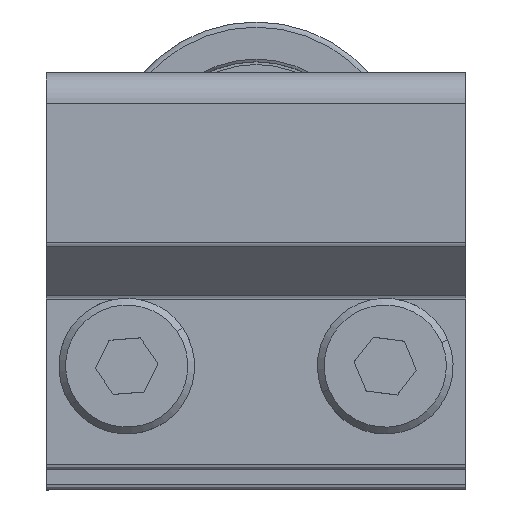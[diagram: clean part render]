
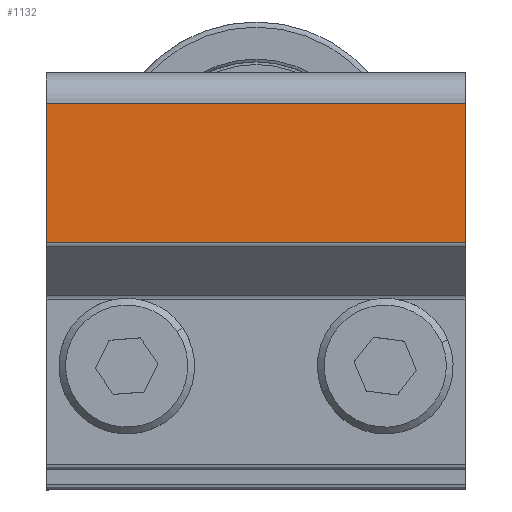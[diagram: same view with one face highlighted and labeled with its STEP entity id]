
A CAD part, top view. The second image highlights one B-rep face of the part: STEP entity #1132.
In plain terms, the highlighted planar face has unit normal (0, 0, 1) as drawn and (1, 0, 0) by its records, which use the part's own axes.
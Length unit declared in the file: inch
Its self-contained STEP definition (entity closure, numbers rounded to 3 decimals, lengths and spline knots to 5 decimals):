
#632=DIRECTION('',(0.,0.,1.));
#633=VECTOR('',#632,1.216);
#634=CARTESIAN_POINT('',(0.375,0.35921,-0.608));
#635=LINE('',#634,#633);
#636=DIRECTION('',(0.,-1.,0.));
#637=VECTOR('',#636,0.40379);
#638=CARTESIAN_POINT('',(0.375,0.763,-0.608));
#639=LINE('',#638,#637);
#717=DIRECTION('',(0.,-1.,0.));
#718=VECTOR('',#717,0.40379);
#719=CARTESIAN_POINT('',(0.375,0.763,0.608));
#720=LINE('',#719,#718);
#930=DIRECTION('',(0.,0.,-1.));
#931=VECTOR('',#930,1.216);
#932=CARTESIAN_POINT('',(0.375,0.763,0.608));
#933=LINE('',#932,#931);
#968=CARTESIAN_POINT('',(0.375,0.763,0.608));
#969=CARTESIAN_POINT('',(0.375,0.35921,0.608));
#970=VERTEX_POINT('',#968);
#971=VERTEX_POINT('',#969);
#1036=CARTESIAN_POINT('',(0.375,0.35921,-0.608));
#1037=VERTEX_POINT('',#1036);
#1046=CARTESIAN_POINT('',(0.375,0.763,-0.608));
#1047=VERTEX_POINT('',#1046);
#1119=CARTESIAN_POINT('',(0.375,0.763,0.608));
#1120=DIRECTION('',(-1.,0.,0.));
#1121=DIRECTION('',(0.,-1.,0.));
#1122=AXIS2_PLACEMENT_3D('',#1119,#1120,#1121);
#1123=PLANE('',#1122);
#1125=ORIENTED_EDGE('',*,*,#1124,.F.);
#1127=ORIENTED_EDGE('',*,*,#1126,.T.);
#1128=ORIENTED_EDGE('',*,*,#1075,.T.);
#1129=ORIENTED_EDGE('',*,*,#1065,.T.);
#1130=EDGE_LOOP('',(#1125,#1127,#1128,#1129));
#1131=FACE_OUTER_BOUND('',#1130,.F.);
#1065=EDGE_CURVE('',#1037,#971,#635,.T.);
#1075=EDGE_CURVE('',#1047,#1037,#639,.T.);
#1124=EDGE_CURVE('',#970,#971,#720,.T.);
#1126=EDGE_CURVE('',#970,#1047,#933,.T.);
#1132=ADVANCED_FACE('',(#1131),#1123,.F.);
